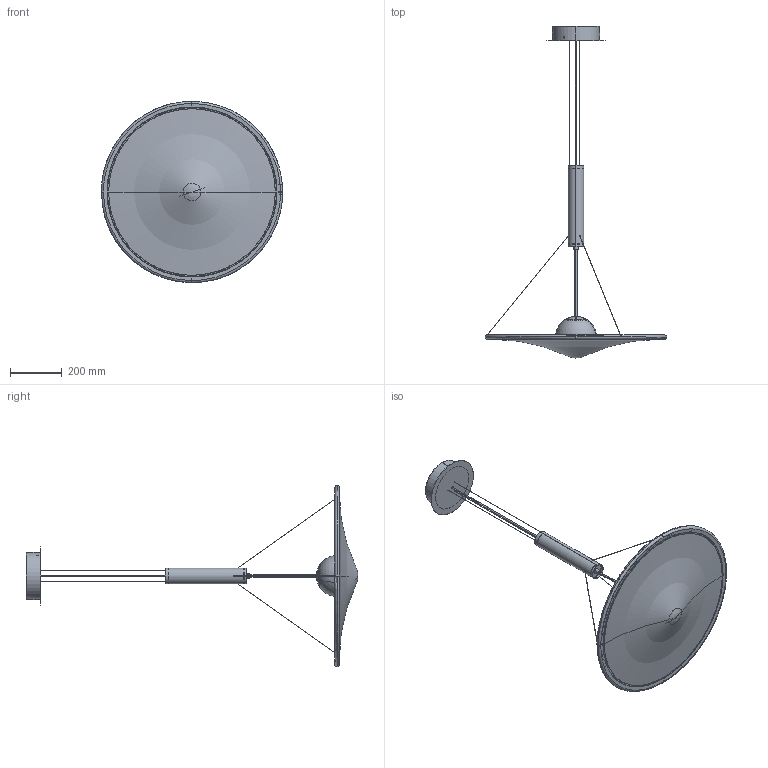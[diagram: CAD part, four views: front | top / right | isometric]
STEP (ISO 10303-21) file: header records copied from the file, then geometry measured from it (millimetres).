
FILE_DESCRIPTION (( 'STEP AP203' ), '1' );
FILE_NAME ('700down.STEP', '2019-07-25T15:23:07', ( '' ), ( '' ), 'SwSTEP 2.0', 'SolidWorks 2019', '' );
FILE_SCHEMA (( 'CONFIG_CONTROL_DESIGN' ));
Length unit declared in the file: millimetre
Products named in the file (27): 1.0C.AXO02.LS01.01_rev_A_SENZA CARICO.STEP; 1.5C.AXO02.LS01.06_rev_A.STEP; 1.5A.AXO02.LS01.M6.STEP; 1.5C.AXO02.LS01.14.STEP; 1.0C.AXO02.LS01.02_CON CARICO.STEP; 1.5C.AXO02.LS01.98.STEP; 1.5C.AXO02.LS01.10.STEP; 1.5C.AXO02.LS01.04.STEP; 1.5C.AXO02.LS01.51.STEP; 700down; 1.5A.AXO02.LS01.S3.STEP; Morsetto Unipolare X2 Wago 221-412.STEP; Bloccacavo Steab_NERO 5100-7-08-2-6.STEP; 700down.STEP; 1.0C.AXO02.LS01.03_rev_A.STEP; 1.5A.AXO02.LS01.S1_rev_A.STEP; 1.5C.AXO02.LS01.21.STEP; 1.5C.AXO02.LS01.13_rev_A_Default_A macchina_.STEP; 1.0A.AXO02.LS01.M1.STEP; Finale Maschio M6 art.21024.STEP; 1.5A.AXO02.LS01.S4.STEP; 1.5C.AXO02.LS01.50_FUNE D''''ACCIAIO INOX 49 CAPI L.500.STEP; 1.5A.AXO02.LS01.M7.STEP; 1.5C.AXO02.LS01.17_rev_A.STEP; Rivetto Filettato M3_SPARATO.STEP; 1.5C.AXO02.LS01.20_rev_A_Default_A macchina_.STEP; 1.5A.AXO02.LS01.M2.STEP
Assembly tree (33 placements, depth 5):
  700down
    700down.STEP
      1.5A.AXO02.LS01.S1_rev_A.STEP
        1.5C.AXO02.LS01.04.STEP
        Rivetto Filettato M3_SPARATO.STEP
      1.0A.AXO02.LS01.M1.STEP
        1.0C.AXO02.LS01.01_rev_A_SENZA CARICO.STEP
        1.0C.AXO02.LS01.02_CON CARICO.STEP
      1.5A.AXO02.LS01.M2.STEP
        1.5C.AXO02.LS01.06_rev_A.STEP
        1.0C.AXO02.LS01.03_rev_A.STEP
      1.5A.AXO02.LS01.M6.STEP
        1.5A.AXO02.LS01.S4.STEP
          1.5C.AXO02.LS01.21.STEP
        1.5C.AXO02.LS01.10.STEP
      1.5A.AXO02.LS01.M7.STEP
        1.5A.AXO02.LS01.S3.STEP
          1.5C.AXO02.LS01.17_rev_A.STEP
        1.5C.AXO02.LS01.20_rev_A_Default_A macchina_.STEP
      1.5C.AXO02.LS01.50_FUNE D''''ACCIAIO INOX 49 CAPI L.500.STEP  x3
      Finale Maschio M6 art.21024.STEP  x3
      Bloccacavo Steab_NERO 5100-7-08-2-6.STEP
      Morsetto Unipolare X2 Wago 221-412.STEP  x2
      1.5C.AXO02.LS01.14.STEP
      1.5C.AXO02.LS01.13_rev_A_Default_A macchina_.STEP
      1.5C.AXO02.LS01.98.STEP  x3
      1.5C.AXO02.LS01.51.STEP
Bounding box: 700.98 x 1282.99 x 700.66 mm (x, y, z)
Volume: 667110.5 mm3; surface area: 1210977.1 mm2
Topology: 33 solids, 35 shells, 849 faces, 2057 edges, 1292 vertices
Faces by surface type: cylinder 396, plane 250, torus 118, cone 69, sphere 16
Entity records: 26692 total; most frequent: CARTESIAN_POINT 8658, DIRECTION 3364, ORIENTED_EDGE 2946, EDGE_CURVE 1477, AXIS2_PLACEMENT_3D 1384, VERTEX_POINT 936, EDGE_LOOP 763, CIRCLE 718
